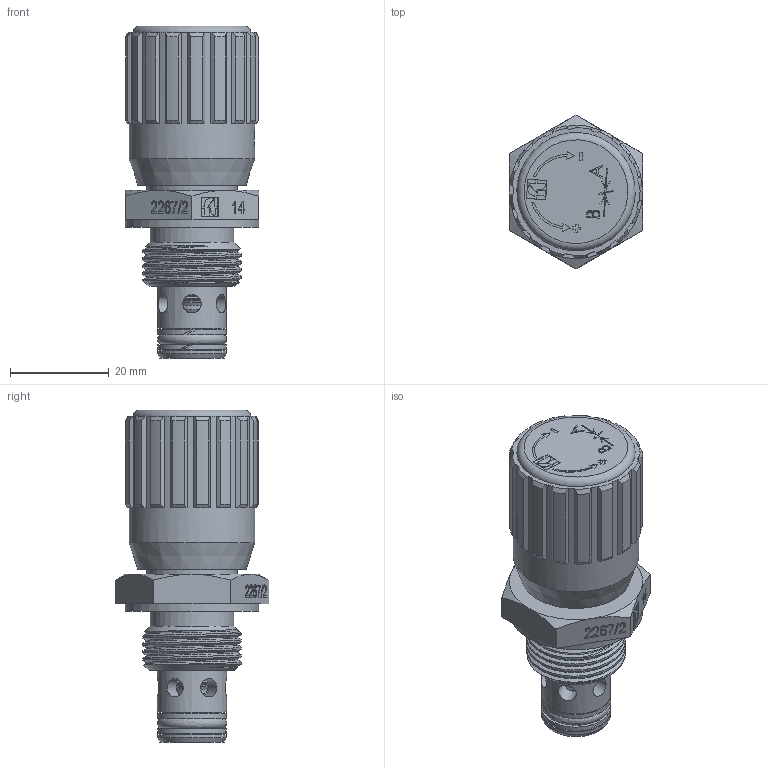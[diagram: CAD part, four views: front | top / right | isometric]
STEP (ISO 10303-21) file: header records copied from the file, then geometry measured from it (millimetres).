
FILE_DESCRIPTION (( 'STEP AP214' ), '1' );
FILE_NAME ('2267-2-14 VOLANTINO ALLUMINIO.STEP', '2025-10-30T14:39:23', ( '' ), ( '' ), 'SwSTEP 2.0', 'SolidWorks 2025', '' );
FILE_SCHEMA (( 'AUTOMOTIVE_DESIGN' ));
Length unit declared in the file: millimetre
Products named in the file (13): OR 2025; GRANO DI BLOCCAGGIO M4x5_Tipo18; 2267-2-14 VOLANTINO ALLUMINIO; ANELLO DI FERMO 1251-2.003.00-38; OR 2043; SPILLO DI REGOLAZIONE 2267-2.002.00-14; CAPPUCCIO VOLANTINO 257-2.007.00-14_Tipo14; BK 2025; VITE A TESTA BOMBATA 2257-2.006.00-14; DISCO FASCETTA 257-1.004.00-14; CORPO CARTUCCIA FILETTATA 2267-2.101.00-14; ANELLO ANTI ESTRUSIONE 267-2.022.00-14; VOLANTINO DI MANOVRA 257-2.005.00-14_Tipo14
Assembly tree (13 placements, depth 2):
  2267-2-14 VOLANTINO ALLUMINIO
    CORPO CARTUCCIA FILETTATA 2267-2.101.00-14
    SPILLO DI REGOLAZIONE 2267-2.002.00-14
    ANELLO ANTI ESTRUSIONE 267-2.022.00-14  x2
    GRANO DI BLOCCAGGIO M4x5_Tipo18
    BK 2025
    OR 2025
    OR 2043
    DISCO FASCETTA 257-1.004.00-14
    VITE A TESTA BOMBATA 2257-2.006.00-14
    CAPPUCCIO VOLANTINO 257-2.007.00-14_Tipo14
    VOLANTINO DI MANOVRA 257-2.005.00-14_Tipo14
    ANELLO DI FERMO 1251-2.003.00-38
Bounding box: 27 x 31.18 x 67.3 mm (x, y, z)
Volume: 22274.8 mm3; surface area: 17212.6 mm2
Topology: 13 solids, 13 shells, 841 faces, 2124 edges, 1361 vertices
Faces by surface type: plane 482, cone 198, cylinder 90, bspline 60, torus 10, sphere 1
Full cylindrical faces by diameter (mm): 2.5 x2, 3 x1, 3.75 x6, 4 x2, 5 x2, 5.5 x1, 5.8 x1, 6.1 x1, 6.4 x1, 6.5 x1, 7 x2, 8 x2, 8.5 x1, 9 x2, 9.5 x1, 10.1 x1, 11 x1, 12 x1, 14 x2, 14.5 x1, 14.8 x1, 17 x1, 17.7 x1, 17.8 x1, 18.3 x1, 25.5 x1, 27 x1
Entity records: 29766 total; most frequent: CARTESIAN_POINT 10645, ORIENTED_EDGE 3766, DIRECTION 3613, EDGE_CURVE 1883, VERTEX_POINT 1319, AXIS2_PLACEMENT_3D 1225, LINE 1163, VECTOR 1163
